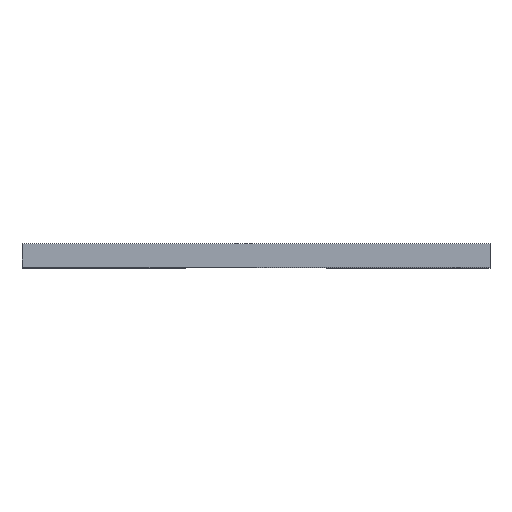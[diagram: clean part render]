
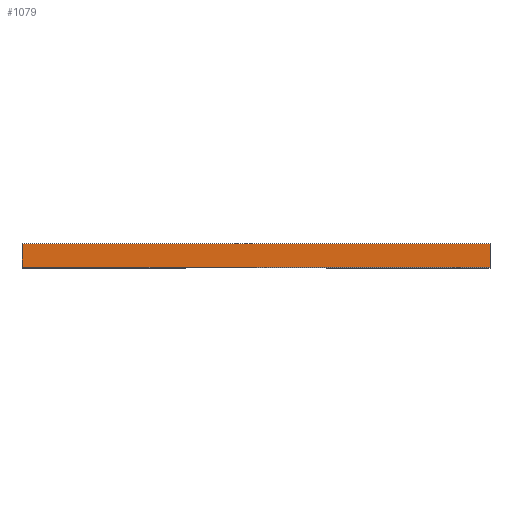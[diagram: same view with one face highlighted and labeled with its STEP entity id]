
A CAD part, top view. The second image highlights one B-rep face of the part: STEP entity #1079.
In plain terms, the highlighted planar face has unit normal (0, 0, 1).
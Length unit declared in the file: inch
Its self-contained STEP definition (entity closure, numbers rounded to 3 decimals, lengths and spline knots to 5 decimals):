
#91 = EDGE_CURVE ( 'NONE', #906, #1082, #817, .T. ) ;
#101 = CARTESIAN_POINT ( 'NONE',  ( 2.5, 0.25, 4.5 ) ) ;
#118 = LINE ( 'NONE', #738, #578 ) ;
#125 = CARTESIAN_POINT ( 'NONE',  ( -2.5, 0.25, 4.5 ) ) ;
#150 = EDGE_CURVE ( 'NONE', #392, #906, #931, .T. ) ;
#289 = PLANE ( 'NONE',  #774 ) ;
#324 = CARTESIAN_POINT ( 'NONE',  ( -2.5, 0., 4.5 ) ) ;
#341 = CARTESIAN_POINT ( 'NONE',  ( -2.5, 0.25, 4.5 ) ) ;
#353 = VECTOR ( 'NONE', #838, 39.37008 ) ;
#392 = VERTEX_POINT ( 'NONE', #125 ) ;
#410 = CARTESIAN_POINT ( 'NONE',  ( 0., 0., 4.5 ) ) ;
#460 = VERTEX_POINT ( 'NONE', #101 ) ;
#482 = EDGE_CURVE ( 'NONE', #1082, #460, #118, .T. ) ;
#489 = VECTOR ( 'NONE', #720, 39.37008 ) ;
#530 = CARTESIAN_POINT ( 'NONE',  ( -2.5, 0., 4.5 ) ) ;
#578 = VECTOR ( 'NONE', #1015, 39.37008 ) ;
#720 = DIRECTION ( 'NONE',  ( 1., 0., 0. ) ) ;
#738 = CARTESIAN_POINT ( 'NONE',  ( 2.5, 0.25, 4.5 ) ) ;
#774 = AXIS2_PLACEMENT_3D ( 'NONE', #410, #982, #873 ) ;
#791 = DIRECTION ( 'NONE',  ( -1., 0., 0. ) ) ;
#808 = ORIENTED_EDGE ( 'NONE', *, *, #977, .T. ) ;
#817 = LINE ( 'NONE', #324, #489 ) ;
#838 = DIRECTION ( 'NONE',  ( 0., -1., 0. ) ) ;
#873 = DIRECTION ( 'NONE',  ( 1., 0., 0. ) ) ;
#906 = VERTEX_POINT ( 'NONE', #530 ) ;
#931 = LINE ( 'NONE', #341, #353 ) ;
#977 = EDGE_CURVE ( 'NONE', #460, #392, #1192, .T. ) ;
#982 = DIRECTION ( 'NONE',  ( 0., 0., 1. ) ) ;
#1006 = ORIENTED_EDGE ( 'NONE', *, *, #482, .T. ) ;
#1015 = DIRECTION ( 'NONE',  ( 0., 1., 0. ) ) ;
#1026 = ORIENTED_EDGE ( 'NONE', *, *, #91, .T. ) ;
#1079 = ADVANCED_FACE ( 'NONE', ( #1105 ), #289, .T. ) ;
#1082 = VERTEX_POINT ( 'NONE', #1180 ) ;
#1105 = FACE_OUTER_BOUND ( 'NONE', #1251, .T. ) ;
#1149 = VECTOR ( 'NONE', #791, 39.37008 ) ;
#1180 = CARTESIAN_POINT ( 'NONE',  ( 2.5, 0., 4.5 ) ) ;
#1192 = LINE ( 'NONE', #1207, #1149 ) ;
#1207 = CARTESIAN_POINT ( 'NONE',  ( -2.5, 0.25, 4.5 ) ) ;
#1224 = ORIENTED_EDGE ( 'NONE', *, *, #150, .T. ) ;
#1251 = EDGE_LOOP ( 'NONE', ( #1224, #1026, #1006, #808 ) ) ;
